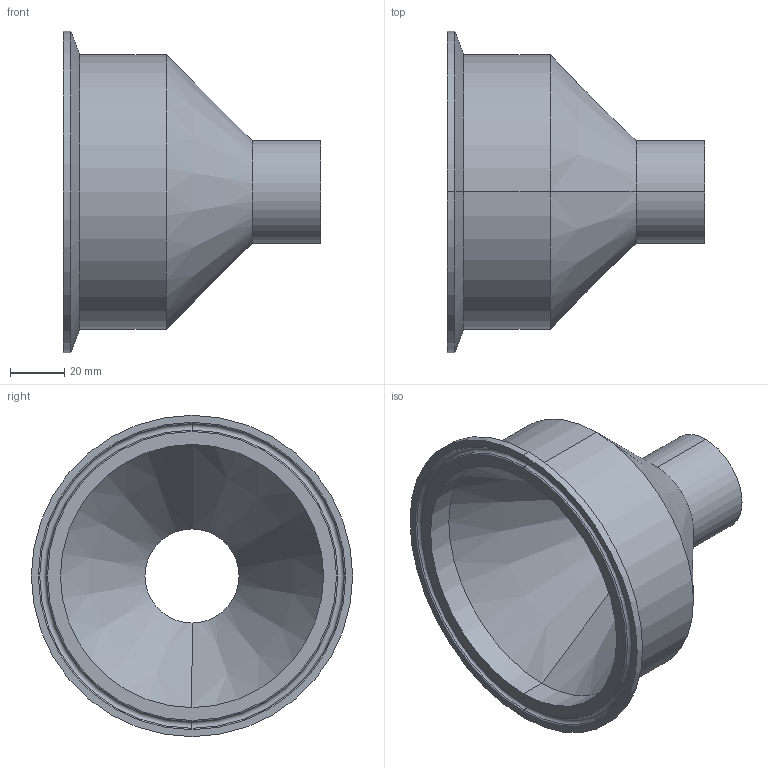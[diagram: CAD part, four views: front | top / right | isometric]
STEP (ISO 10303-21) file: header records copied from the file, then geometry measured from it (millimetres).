
FILE_DESCRIPTION (( 'STEP AP214' ), '1' );
FILE_NAME ('TE31SCW6L4.0X1.5.STEP', '2025-10-28T16:57:31', ( '' ), ( '' ), 'SwSTEP 2.0', 'SolidWorks 2023', '' );
FILE_SCHEMA (( 'AUTOMOTIVE_DESIGN' ));
Length unit declared in the file: inch
Products named in the file (1): TE31SCW6L4.0X1.5
Bounding box: 95.25 x 118.92 x 118.92 mm (x, y, z)
Volume: 197116.9 mm3; surface area: 50760.4 mm2
Topology: 1 solids, 1 shells, 25 faces, 50 edges, 28 vertices
Faces by surface type: cylinder 10, cone 6, torus 6, plane 3
Entity records: 681 total; most frequent: DIRECTION 136, CARTESIAN_POINT 104, ORIENTED_EDGE 100, AXIS2_PLACEMENT_3D 60, EDGE_CURVE 50, CIRCLE 34, VERTEX_POINT 28, EDGE_LOOP 28
